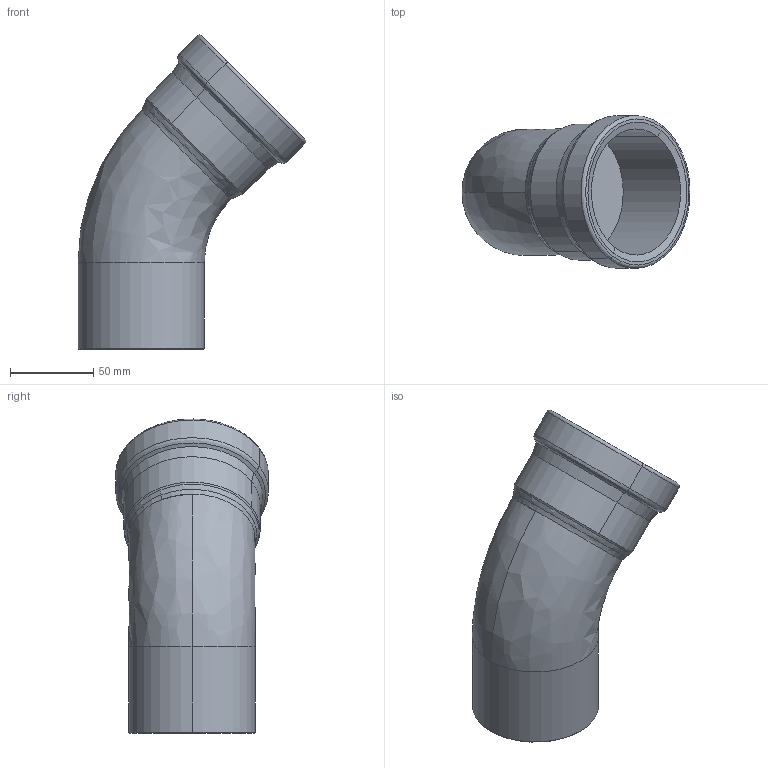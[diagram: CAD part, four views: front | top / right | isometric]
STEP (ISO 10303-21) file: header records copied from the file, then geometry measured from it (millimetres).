
FILE_DESCRIPTION(('STEP AP214'),'1');
FILE_NAME('703792.stp','2025-12-08T08:58:35',('CAD-PIM'),('TransMagic R14'),'Spatial InterOp 3D',' ',' ');
FILE_SCHEMA(('AUTOMOTIVE_DESIGN { 1 0 10303 214 1 1 1 1 }'));
Length unit declared in the file: millimetre
Products named in the file (1): 703792
Bounding box: 137.27 x 91.97 x 189.12 mm (x, y, z)
Volume: 665585.3 mm3; surface area: 68293.2 mm2
Topology: 1 solids, 1 shells, 31 faces, 68 edges, 40 vertices
Faces by surface type: bspline 31
Entity records: 1848 total; most frequent: CARTESIAN_POINT 467, STYLED_ITEM 140, PRESENTATION_STYLE_ASSIGNMENT 140, COLOUR_RGB 140, ORIENTED_EDGE 136, DIRECTION 102, EDGE_CURVE 68, CURVE_STYLE 68
